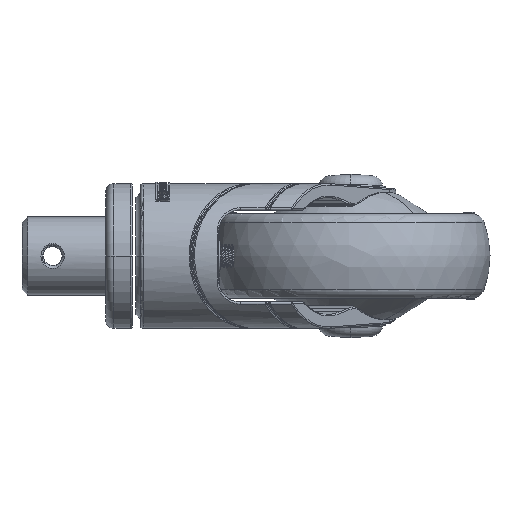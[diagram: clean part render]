
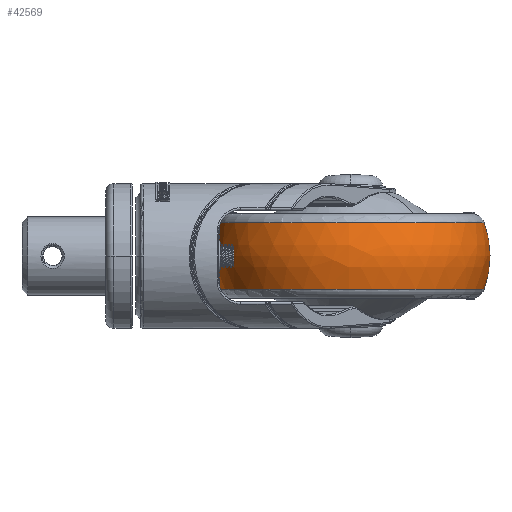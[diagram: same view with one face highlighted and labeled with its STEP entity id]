
A CAD part, left-side view. The second image highlights one B-rep face of the part: STEP entity #42569.
In plain terms, the highlighted free-form (B-spline) face has degree [3, 3] with [7, 4] control points.
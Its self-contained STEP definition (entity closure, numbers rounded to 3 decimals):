
#36398=CARTESIAN_POINT('',(36.,-69.8,-11.958));
#36399=DIRECTION('',(0.,0.,-1.));
#36400=DIRECTION('',(-0.012,-1.,0.));
#36401=AXIS2_PLACEMENT_3D('',#36398,#36399,#36400);
#36403=CARTESIAN_POINT('',(36.,-69.8,11.958));
#36404=DIRECTION('',(0.,0.,-1.));
#36405=DIRECTION('',(-0.012,-1.,0.));
#36406=AXIS2_PLACEMENT_3D('',#36403,#36404,#36405);
#36665=CARTESIAN_POINT('',(35.815,-84.799,0.));
#36666=DIRECTION('',(1.,-0.012,0.));
#36667=DIRECTION('',(-0.012,-0.94,0.342));
#36668=AXIS2_PLACEMENT_3D('',#36665,#36666,#36667);
#36675=CARTESIAN_POINT('',(36.185,-54.801,0.));
#36676=DIRECTION('',(-1.,0.012,0.));
#36677=DIRECTION('',(0.012,0.94,0.342));
#36678=AXIS2_PLACEMENT_3D('',#36675,#36676,#36677);
#40719=CARTESIAN_POINT('',(35.41,-117.69,
-11.958));
#40720=CARTESIAN_POINT('',(36.59,-21.91,
-11.958));
#40721=VERTEX_POINT('',#40719);
#40722=VERTEX_POINT('',#40720);
#40723=CARTESIAN_POINT('',(35.41,-117.69,
11.958));
#40724=CARTESIAN_POINT('',(36.59,-21.91,
11.958));
#40725=VERTEX_POINT('',#40723);
#40726=VERTEX_POINT('',#40724);
#42530=CARTESIAN_POINT('',(39.583,-22.211,
-12.416));
#42531=CARTESIAN_POINT('',(39.814,-19.15,
-4.326));
#42532=CARTESIAN_POINT('',(39.814,-19.15,
4.326));
#42533=CARTESIAN_POINT('',(39.583,-22.211,
12.416));
#42534=CARTESIAN_POINT('',(10.297,-20.006,
-12.416));
#42535=CARTESIAN_POINT('',(8.644,-16.803,
-4.326));
#42536=CARTESIAN_POINT('',(8.644,-16.803,
4.326));
#42537=CARTESIAN_POINT('',(10.297,-20.006,
12.416));
#42538=CARTESIAN_POINT('',(-11.358,-39.845,
-12.416));
#42539=CARTESIAN_POINT('',(-14.404,-37.919,
-4.326));
#42540=CARTESIAN_POINT('',(-14.404,-37.919,
4.326));
#42541=CARTESIAN_POINT('',(-11.358,-39.845,
12.416));
#42542=CARTESIAN_POINT('',(-11.72,-69.212,
-12.416));
#42543=CARTESIAN_POINT('',(-14.789,-69.174,
-4.326));
#42544=CARTESIAN_POINT('',(-14.789,-69.174,
4.326));
#42545=CARTESIAN_POINT('',(-11.72,-69.212,
12.416));
#42546=CARTESIAN_POINT('',(-12.082,-98.579,
-12.416));
#42547=CARTESIAN_POINT('',(-15.174,-100.43,
-4.326));
#42548=CARTESIAN_POINT('',(-15.174,-100.43,
4.326));
#42549=CARTESIAN_POINT('',(-12.082,-98.579,
12.416));
#42550=CARTESIAN_POINT('',(9.078,-118.946,
-12.416));
#42551=CARTESIAN_POINT('',(7.346,-122.107,
-4.326));
#42552=CARTESIAN_POINT('',(7.346,-122.107,
4.326));
#42553=CARTESIAN_POINT('',(9.078,-118.946,
12.416));
#42554=CARTESIAN_POINT('',(38.41,-117.463,
-12.416));
#42555=CARTESIAN_POINT('',(38.565,-120.528,
-4.326));
#42556=CARTESIAN_POINT('',(38.565,-120.528,
4.326));
#42557=CARTESIAN_POINT('',(38.41,-117.463,
12.416));
#42558=(BOUNDED_SURFACE()B_SPLINE_SURFACE(3,3,((#42530,#42531,#42532,#42533),(
#42534,#42535,#42536,#42537),(#42538,#42539,#42540,#42541),(#42542,#42543,
#42544,#42545),(#42546,#42547,#42548,#42549),(#42550,#42551,#42552,#42553),(
#42554,#42555,#42556,#42557)),.UNSPECIFIED.,.F.,.F.,.F.)B_SPLINE_SURFACE_WITH_KNOTS((4,3,4),(4,4),(0.,1.,2.),(0.,1.),.UNSPECIFIED.)GEOMETRIC_REPRESENTATION_ITEM()RATIONAL_B_SPLINE_SURFACE(((1.227,1.174,
1.174,1.227),(0.969,0.927,
0.927,0.969),(0.969,0.927,
0.927,0.969),(1.227,1.174,
1.174,1.227),(0.969,0.927,
0.927,0.969),(0.969,0.927,
0.927,0.969),(1.227,1.174,
1.174,1.227)))REPRESENTATION_ITEM('')SURFACE());
#42560=ORIENTED_EDGE('',*,*,#42559,.T.);
#42562=ORIENTED_EDGE('',*,*,#42561,.F.);
#42564=ORIENTED_EDGE('',*,*,#42563,.F.);
#42566=ORIENTED_EDGE('',*,*,#42565,.T.);
#42567=EDGE_LOOP('',(#42560,#42562,#42564,#42566));
#42568=FACE_OUTER_BOUND('',#42567,.F.);
#36402=CIRCLE('',#36401,47.894);
#36407=CIRCLE('',#36406,47.894);
#36669=CIRCLE('',#36668,35.);
#36679=CIRCLE('',#36678,35.);
#42559=EDGE_CURVE('',#40721,#40722,#36402,.T.);
#42561=EDGE_CURVE('',#40726,#40722,#36679,.T.);
#42563=EDGE_CURVE('',#40725,#40726,#36407,.T.);
#42565=EDGE_CURVE('',#40725,#40721,#36669,.T.);
#42569=ADVANCED_FACE('',(#42568),#42558,.T.);
